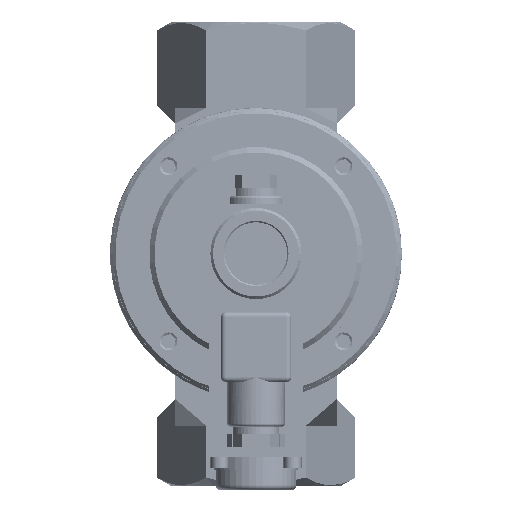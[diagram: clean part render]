
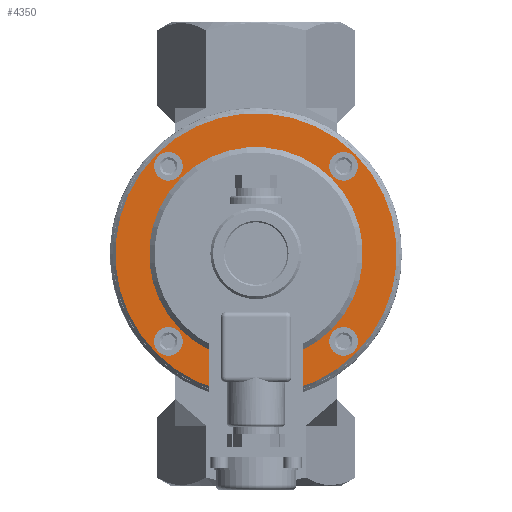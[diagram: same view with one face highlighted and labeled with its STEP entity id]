
A CAD part, top view. The second image highlights one B-rep face of the part: STEP entity #4350.
In plain terms, the highlighted planar face has unit normal (0, 0, 1).
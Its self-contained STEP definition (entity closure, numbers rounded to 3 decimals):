
#4350 = ADVANCED_FACE( '', ( #6672, #6673, #6674, #6675, #6676, #6677 ), #6678, .F. );
#6672 = FACE_BOUND( '', #10078, .T. );
#6673 = FACE_BOUND( '', #10079, .T. );
#6674 = FACE_BOUND( '', #10080, .T. );
#6675 = FACE_BOUND( '', #10081, .T. );
#6676 = FACE_OUTER_BOUND( '', #10082, .T. );
#6677 = FACE_BOUND( '', #10083, .T. );
#6678 = PLANE( '', #10084 );
#10078 = EDGE_LOOP( '', ( #19022 ) );
#10079 = EDGE_LOOP( '', ( #19023 ) );
#10080 = EDGE_LOOP( '', ( #19024 ) );
#10081 = EDGE_LOOP( '', ( #19025 ) );
#10082 = EDGE_LOOP( '', ( #19026 ) );
#10083 = EDGE_LOOP( '', ( #19027 ) );
#10084 = AXIS2_PLACEMENT_3D( '', #19028, #19029, #19030 );
#19022 = ORIENTED_EDGE( '', *, *, #22222, .T. );
#19023 = ORIENTED_EDGE( '', *, *, #22223, .T. );
#19024 = ORIENTED_EDGE( '', *, *, #22224, .T. );
#19025 = ORIENTED_EDGE( '', *, *, #22225, .T. );
#19026 = ORIENTED_EDGE( '', *, *, #22226, .T. );
#19027 = ORIENTED_EDGE( '', *, *, #22227, .T. );
#19028 = CARTESIAN_POINT( '', ( -55., 0., 13. ) );
#19029 = DIRECTION( '', ( 0., 0., -1. ) );
#19030 = DIRECTION( '', ( -1., 0., 0. ) );
#22222 = EDGE_CURVE( '', #25549, #25549, #25550, .T. );
#22223 = EDGE_CURVE( '', #25551, #25551, #25552, .T. );
#22224 = EDGE_CURVE( '', #25553, #25553, #25554, .T. );
#22225 = EDGE_CURVE( '', #25555, #25555, #25556, .T. );
#22226 = EDGE_CURVE( '', #25557, #25557, #25558, .F. );
#22227 = EDGE_CURVE( '', #25559, #25559, #25560, .T. );
#25549 = VERTEX_POINT( '', #32038 );
#25550 = CIRCLE( '', #32039, 5.5 );
#25551 = VERTEX_POINT( '', #32040 );
#25552 = CIRCLE( '', #32041, 5.5 );
#25553 = VERTEX_POINT( '', #32042 );
#25554 = CIRCLE( '', #32043, 5.5 );
#25555 = VERTEX_POINT( '', #32044 );
#25556 = CIRCLE( '', #32045, 5.5 );
#25557 = VERTEX_POINT( '', #32046 );
#25558 = CIRCLE( '', #32047, 54. );
#25559 = VERTEX_POINT( '', #32048 );
#25560 = CIRCLE( '', #32049, 41. );
#32038 = CARTESIAN_POINT( '', ( -5.5, 47.5, 13. ) );
#32039 = AXIS2_PLACEMENT_3D( '', #36035, #36036, #36037 );
#32040 = CARTESIAN_POINT( '', ( 47.5, 5.5, 13. ) );
#32041 = AXIS2_PLACEMENT_3D( '', #36038, #36039, #36040 );
#32042 = CARTESIAN_POINT( '', ( 5.5, -47.5, 13. ) );
#32043 = AXIS2_PLACEMENT_3D( '', #36041, #36042, #36043 );
#32044 = CARTESIAN_POINT( '', ( -47.5, -5.5, 13. ) );
#32045 = AXIS2_PLACEMENT_3D( '', #36044, #36045, #36046 );
#32046 = CARTESIAN_POINT( '', ( -54., 0., 13. ) );
#32047 = AXIS2_PLACEMENT_3D( '', #36047, #36048, #36049 );
#32048 = CARTESIAN_POINT( '', ( -41., 0., 13. ) );
#32049 = AXIS2_PLACEMENT_3D( '', #36050, #36051, #36052 );
#36035 = CARTESIAN_POINT( '', ( 0., 47.5, 13. ) );
#36036 = DIRECTION( '', ( 0., 0., -1. ) );
#36037 = DIRECTION( '', ( -1., 0., 0. ) );
#36038 = CARTESIAN_POINT( '', ( 47.5, 0., 13. ) );
#36039 = DIRECTION( '', ( 0., 0., -1. ) );
#36040 = DIRECTION( '', ( 0., 1., 0. ) );
#36041 = CARTESIAN_POINT( '', ( 0., -47.5, 13. ) );
#36042 = DIRECTION( '', ( 0., 0., -1. ) );
#36043 = DIRECTION( '', ( 1., 0., 0. ) );
#36044 = CARTESIAN_POINT( '', ( -47.5, 0., 13. ) );
#36045 = DIRECTION( '', ( 0., 0., -1. ) );
#36046 = DIRECTION( '', ( 0., -1., 0. ) );
#36047 = CARTESIAN_POINT( '', ( 0., 0., 13. ) );
#36048 = DIRECTION( '', ( 0., 0., -1. ) );
#36049 = DIRECTION( '', ( -1., 0., 0. ) );
#36050 = CARTESIAN_POINT( '', ( 0., 0., 13. ) );
#36051 = DIRECTION( '', ( 0., 0., -1. ) );
#36052 = DIRECTION( '', ( -1., 0., 0. ) );
